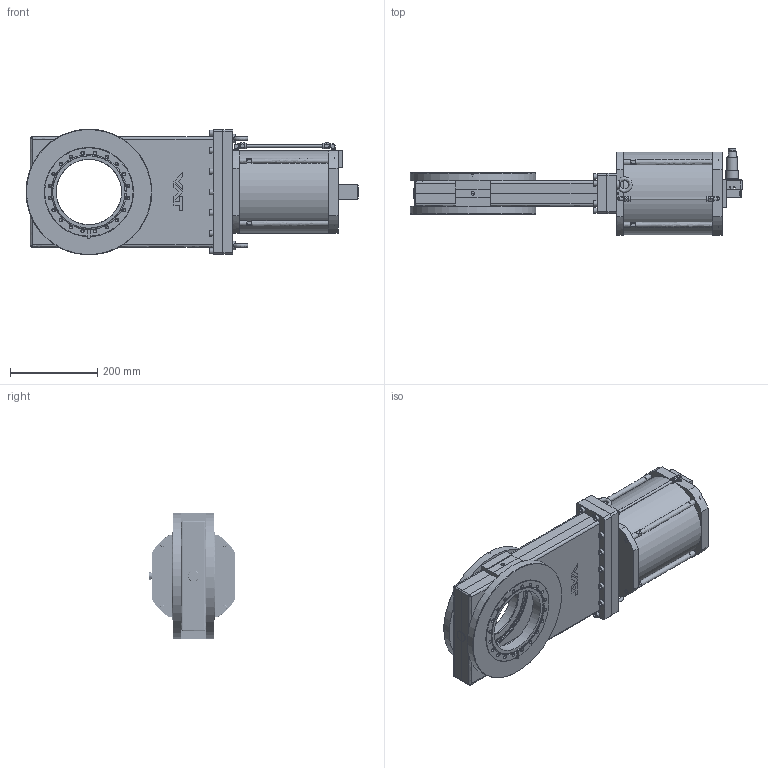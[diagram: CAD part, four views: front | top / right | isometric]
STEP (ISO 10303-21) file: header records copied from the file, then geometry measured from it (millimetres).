
FILE_DESCRIPTION((''),'2;1');
FILE_NAME('C:\TEMP\IDEAS\251429.stp','2007-07-02T17:50:47',('User'),( 'SDRC'),'I-DEAS Master Series 9','UNIX','Yes');
FILE_SCHEMA(('CONFIG_CONTROL_DESIGN'));
Length unit declared in the file: millimetre
Assembly tree (55 placements, depth 0):
Bounding box: 760.83 x 197 x 288.25 mm (x, y, z)
Volume: 5570457.5 mm3; surface area: 1431550.7 mm2
Topology: 95 solids, 95 shells, 1753 faces, 3922 edges, 2619 vertices
Faces by surface type: bspline 1753
Entity records: 43810 total; most frequent: CARTESIAN_POINT 23953, ORIENTED_EDGE 4910, EDGE_CURVE 2455, VERTEX_POINT 1613, EDGE_LOOP 1482, FACE_OUTER_BOUND 1129, ADVANCED_FACE 1129, QUASI_UNIFORM_CURVE 921
